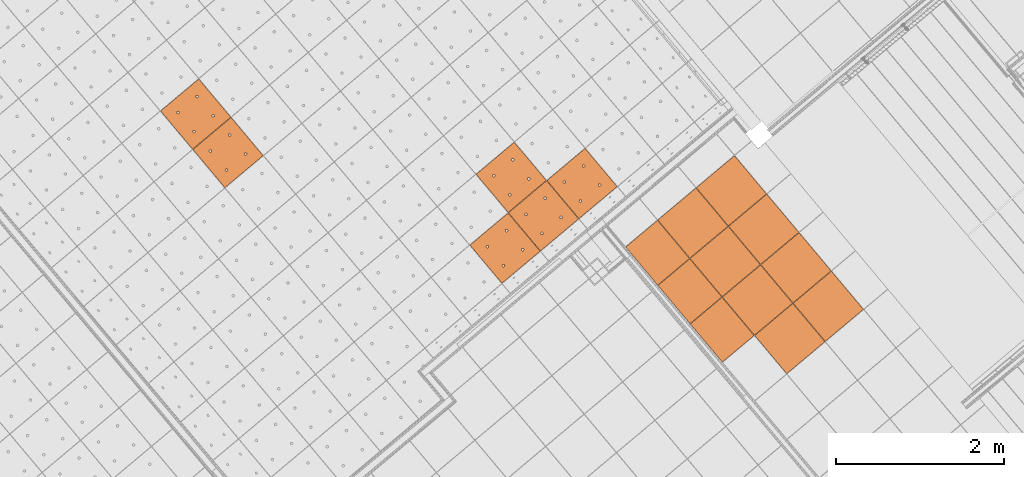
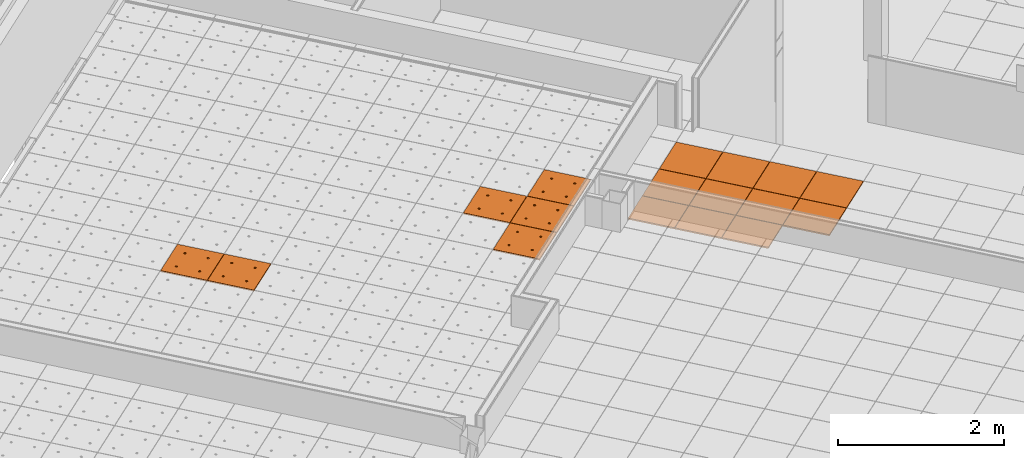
# One storey, part 169 of 338: 17 proxies, 2 elements without a shape of their own.
"""IFC2X3 building model written with IfcOpenShell, lengths in millimetres."""

import ifcopenshell
import ifcopenshell.guid

model = None  # the IFC model being written
_history = None  # IfcOwnerHistory: only IFC2X3 demands one
_inside = {}  # id of a spatial element -> (the spatial element, [elements in it])
_under = {}  # id of a project, library or spatial element -> (it, [spatial elements below it])
_declared = {}  # id of a project -> (the project, [libraries it declares])
_typed = {}  # id of a type object -> (the type object, [elements of that type])
_made_of = {}  # id of a material, layer set ... -> (it, [elements and type objects made of it])


def new_model(schema):
    """Start an empty IFC model of exactly this schema.

    Asked for "IFC4X3", IfcOpenShell would pick the latest addendum, in which some entities
    have other attributes; the version numbers below select the first issue.
    IFC2X3 requires an IfcOwnerHistory on every rooted entity: one is made here for all.
    """
    global model, _history
    if schema == "IFC4X3":
        model = ifcopenshell.file(schema_version=(4, 3, 0, 0))
    else:
        model = ifcopenshell.file(schema=schema)
    _inside.clear()
    _under.clear()
    _declared.clear()
    _typed.clear()
    _made_of.clear()
    _history = None
    if model.schema == "IFC2X3":
        org = make("IfcOrganization", Name="unknown")
        user = make(
            "IfcPersonAndOrganization",
            ThePerson=make("IfcPerson", FamilyName="unknown"),
            TheOrganization=org,
        )
        app = make(
            "IfcApplication",
            ApplicationDeveloper=org,
            Version="unknown",
            ApplicationFullName="unknown",
            ApplicationIdentifier="unknown",
        )
        _history = make(
            "IfcOwnerHistory",
            OwningUser=user,
            OwningApplication=app,
            ChangeAction="ADDED",
            CreationDate=0,
        )
    return model


def make(cls, **values):
    """One entity of the class cls with the attributes given. An attribute that is None is left unset."""
    return model.create_entity(
        cls, **{name: value for name, value in values.items() if value is not None}
    )


def entity(cls, *values):
    """Any entity or typed value of the class cls, its attributes in the order of the schema. None: left unset."""
    e = model.create_entity(cls)
    for i, value in enumerate(values):
        if value is not None:
            e[i] = value
    return e


def rooted(cls, **values):
    """An entity with a GlobalId (a new one), such as an element, a storey or a relation."""
    return make(cls, GlobalId=ifcopenshell.guid.new(), OwnerHistory=_history, **values)


def si_unit(unit_type, name, prefix=None):
    """IfcSIUnit, for example si_unit("LENGTHUNIT", "METRE", prefix="MILLI")."""
    return make("IfcSIUnit", UnitType=unit_type, Prefix=prefix, Name=name)


def converted_unit(unit_type, name, factor, base, dimensions=None, offset=None):
    """IfcConversionBasedUnit, such as the inch: factor (a typed value) times the base unit."""
    return make(
        "IfcConversionBasedUnit"
        if offset is None
        else "IfcConversionBasedUnitWithOffset",
        ConversionOffset=offset,
        Dimensions=None
        if dimensions is None
        else entity("IfcDimensionalExponents", *dimensions),
        UnitType=unit_type,
        Name=name,
        ConversionFactor=make(
            "IfcMeasureWithUnit", ValueComponent=factor, UnitComponent=base
        ),
    )


def derived_unit(unit_type, elements):
    """IfcDerivedUnit: a product of units, each with its exponent."""
    return make(
        "IfcDerivedUnit",
        Elements=[
            make("IfcDerivedUnitElement", Unit=unit, Exponent=power)
            for unit, power in elements
        ],
        UnitType=unit_type,
    )


def money_unit(currency):
    """IfcMonetaryUnit."""
    return make("IfcMonetaryUnit", Currency=currency)


def assignment(units):
    """IfcUnitAssignment: the units of a project."""
    return None if units is None else make("IfcUnitAssignment", Units=units)


def point(xyz):
    """IfcCartesianPoint."""
    return None if xyz is None else make("IfcCartesianPoint", Coordinates=xyz)


def direction(xyz):
    """IfcDirection."""
    return None if xyz is None else make("IfcDirection", DirectionRatios=xyz)


def frame(location, z_axis=None, x_axis=None):
    """IfcAxis2Placement3D, a coordinate frame: its origin and axes. An axis left out is left unset."""
    return make(
        "IfcAxis2Placement3D",
        Location=point(location),
        Axis=direction(z_axis),
        RefDirection=direction(x_axis),
    )


def origin_with_axes():
    """The frame at (0, 0, 0) with the z axis (0, 0, 1) and the x axis (1, 0, 0) written out."""
    return frame((0.0, 0.0, 0.0), z_axis=(0.0, 0.0, 1.0), x_axis=(1.0, 0.0, 0.0))


def place(relative_to, where):
    """IfcLocalPlacement: puts the frame where relative to a parent placement (None: the world)."""
    return make(
        "IfcLocalPlacement", PlacementRelTo=relative_to, RelativePlacement=where
    )


def context(
    kind, dimensions, precision=None, world=None, true_north=None, identifier=None
):
    """IfcGeometricRepresentationContext, for example the 3D "Model" context."""
    return make(
        "IfcGeometricRepresentationContext",
        ContextIdentifier=identifier,
        ContextType=kind,
        CoordinateSpaceDimension=dimensions,
        Precision=precision,
        WorldCoordinateSystem=world,
        TrueNorth=true_north,
    )


def subcontext(parent, identifier, kind, view, scale=None):
    """IfcGeometricRepresentationSubContext, for example "Body" below "Model"."""
    return make(
        "IfcGeometricRepresentationSubContext",
        ContextIdentifier=identifier,
        ContextType=kind,
        ParentContext=parent,
        TargetScale=scale,
        TargetView=view,
    )


def project(units=None, contexts=None):
    """IfcProject with its units and contexts."""
    return rooted(
        "IfcProject",
        Name="project",
        RepresentationContexts=contexts,
        UnitsInContext=assignment(units),
    )


def spatial(cls, under=None, at=None, **own):
    """A site, building, storey or space (cls), placed at a placement, below another one or the project."""
    s = rooted(cls, ObjectPlacement=at, **own)
    if under is not None:
        _under.setdefault(under.id(), (under, []))[1].append(s)
    return s


def faces_of(points, faces, orient=None, outer=None):
    """IfcFace entities. A face is a list of loops; a loop is a list of indices into points, from 0.

    orient and outer hold one flag for each loop. By default every Orientation is true, the
    first loop of a face is its IfcFaceOuterBound and the others are IfcFaceBound.
    """
    made = []
    for i, loops in enumerate(faces):
        bounds = []
        for j, loop in enumerate(loops):
            is_outer = j == 0 if outer is None else outer[i][j]
            bounds.append(
                make(
                    "IfcFaceOuterBound" if is_outer else "IfcFaceBound",
                    Bound=make("IfcPolyLoop", Polygon=[points[k] for k in loop]),
                    Orientation=True if orient is None else orient[i][j],
                )
            )
        made.append(make("IfcFace", Bounds=bounds))
    return made


def faceted_brep(points, faces, orient=None, outer=None, voids=None):
    """IfcFacetedBrep: a solid bounded by flat faces; with voids (closed shells), ...WithVoids."""
    shared = [point(p) for p in points]
    hull = make("IfcClosedShell", CfsFaces=faces_of(shared, faces, orient, outer))
    if voids is None:
        return make("IfcFacetedBrep", Outer=hull)
    return make(
        "IfcFacetedBrepWithVoids",
        Outer=hull,
        Voids=[
            make(cls, CfsFaces=faces_of(shared, fs, o, b)) for cls, fs, o, b in voids
        ],
    )


def shape(context_of_items, identifier, shape_type, items):
    """IfcShapeRepresentation: the items that make up one representation, for example the "Body"."""
    return make(
        "IfcShapeRepresentation",
        ContextOfItems=context_of_items,
        RepresentationIdentifier=identifier,
        RepresentationType=shape_type,
        Items=items,
    )


def source(mapping_origin, context_of_items, identifier, shape_type, items):
    """IfcRepresentationMap: a shape defined once, which mapped items show again and again."""
    return make(
        "IfcRepresentationMap",
        MappingOrigin=mapping_origin,
        MappedRepresentation=shape(context_of_items, identifier, shape_type, items),
    )


def transform(
    local_origin,
    x_axis=None,
    y_axis=None,
    z_axis=None,
    scale=None,
    scale2=None,
    scale3=None,
    uniform=True,
):
    """IfcCartesianTransformationOperator3D, or its non-uniform kind. x_axis, y_axis, z_axis: its Axis1, 2, 3."""
    if uniform:
        return make(
            "IfcCartesianTransformationOperator3D",
            Axis1=direction(x_axis),
            Axis2=direction(y_axis),
            LocalOrigin=point(local_origin),
            Scale=scale,
            Axis3=direction(z_axis),
        )
    return make(
        "IfcCartesianTransformationOperator3DnonUniform",
        Axis1=direction(x_axis),
        Axis2=direction(y_axis),
        LocalOrigin=point(local_origin),
        Scale=scale,
        Axis3=direction(z_axis),
        Scale2=scale2,
        Scale3=scale3,
    )


def mapped(mapping_source, mapping_target):
    """IfcMappedItem: shows the shape of a source again, moved by a transform."""
    return make(
        "IfcMappedItem", MappingSource=mapping_source, MappingTarget=mapping_target
    )


def material(Name=None, Category=None):
    """IfcMaterial."""
    return make("IfcMaterial", Name=Name, Category=Category)


def made_of(thing, what):
    """Note that an element or type object is made of a material, layer set ...; save() writes the relation."""
    if what is not None:
        _made_of.setdefault(what.id(), (what, []))[1].append(thing)
    return thing


def type_object(cls, material=None, **own):
    """A type object (cls), such as IfcWallType, which elements share."""
    return made_of(rooted(cls, **own), material)


def type_shapes(of_type, sources):
    """Give a type object the sources (RepresentationMaps) that its elements show as mapped items."""
    of_type.RepresentationMaps = sources


def element(
    cls,
    number,
    at=None,
    inside=None,
    cuts=None,
    type_object=None,
    material=None,
    context=None,
    identifier="Body",
    shape_type=None,
    held_by="IfcProductDefinitionShape",
    body=None,
    shapes=None,
    **own,
):
    """One element of the class cls, such as IfcWall. Its Tag is "e" and its number.

    at: its placement. inside: the storey or other place that contains it. cuts: it is an
    opening in that element (IfcRelVoidsElement). A single representation is given by context,
    identifier, shape_type and body (its items); several are given by shapes. held_by: the class
    of the entity that holds the representations. save() writes the other relations.
    """
    e = rooted(cls, Tag="e%d" % number, ObjectPlacement=at, **own)
    if body is not None:
        shapes = [shape(context, identifier, shape_type, body)]
    if shapes is not None:
        e.Representation = make(held_by, Representations=shapes)
    if inside is not None:
        _inside.setdefault(inside.id(), (inside, []))[1].append(e)
    if cuts is not None:
        rooted(
            "IfcRelVoidsElement", RelatingBuildingElement=cuts, RelatedOpeningElement=e
        )
    if type_object is not None:
        _typed.setdefault(type_object.id(), (type_object, []))[1].append(e)
    return made_of(e, material)


def aggregate(whole, parts):
    """IfcRelAggregates: a whole, such as a stair, and the parts it consists of."""
    return rooted("IfcRelAggregates", RelatingObject=whole, RelatedObjects=parts)


def save(model, path):
    """Write the relations noted so far, then the file.

    IfcRelAggregates (storeys below a building ...), IfcRelContainedInSpatialStructure (elements
    in a storey), IfcRelDefinesByType, IfcRelAssociatesMaterial and IfcRelDeclares: one each for
    every whole, place, type object, material and project.
    """
    for whole, parts in _under.values():
        aggregate(whole, parts)
    for where, things in _inside.values():
        rooted(
            "IfcRelContainedInSpatialStructure",
            RelatedElements=things,
            RelatingStructure=where,
        )
    for kind, things in _typed.values():
        rooted("IfcRelDefinesByType", RelatedObjects=things, RelatingType=kind)
    for what, things in _made_of.values():
        rooted("IfcRelAssociatesMaterial", RelatedObjects=things, RelatingMaterial=what)
    for by, libraries in _declared.values():
        rooted("IfcRelDeclares", RelatingContext=by, RelatedDefinitions=libraries)
    model.write(path)


model = new_model("IFC2X3")

# Units and contexts
model_context = context("Model", 3, precision=0.01, world=origin_with_axes(), true_north=direction((0.0, 1.0)))
plan_context = context("Plan", 3, precision=0.01, world=origin_with_axes(), true_north=direction((0.0, 1.0)))
body_context = subcontext(model_context, "Body", "Model", "MODEL_VIEW")
ifc_project = project(units=[si_unit("LENGTHUNIT", "METRE", prefix="MILLI"), si_unit("AREAUNIT", "SQUARE_METRE"), si_unit("VOLUMEUNIT", "CUBIC_METRE"), converted_unit("PLANEANGLEUNIT", "DEGREE", entity("IfcPlaneAngleMeasure", 0.0174532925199), si_unit("PLANEANGLEUNIT", "RADIAN"), dimensions=[0, 0, 0, 0, 0, 0, 0]), money_unit("EUR"), converted_unit("TIMEUNIT", "Year", entity("IfcTimeMeasure", 31556926.0), si_unit("TIMEUNIT", "SECOND"), dimensions=[0, 0, 1, 0, 0, 0, 0]), si_unit("MASSUNIT", "GRAM", prefix="KILO"), si_unit("THERMODYNAMICTEMPERATUREUNIT", "DEGREE_CELSIUS"), si_unit("LUMINOUSINTENSITYUNIT", "LUMEN"), si_unit("ENERGYUNIT", "JOULE", prefix="MEGA"), derived_unit("THERMALCONDUCTANCEUNIT", [(si_unit("POWERUNIT", "WATT"), 1), (si_unit("LENGTHUNIT", "METRE"), -1), (si_unit("THERMODYNAMICTEMPERATUREUNIT", "KELVIN"), -1)]), derived_unit("SPECIFICHEATCAPACITYUNIT", [(si_unit("ENERGYUNIT", "JOULE"), 1), (si_unit("MASSUNIT", "GRAM", prefix="KILO"), -1), (si_unit("THERMODYNAMICTEMPERATUREUNIT", "KELVIN"), -1)]), derived_unit("MASSDENSITYUNIT", [(si_unit("MASSUNIT", "GRAM", prefix="KILO"), 1), (si_unit("VOLUMEUNIT", "CUBIC_METRE"), -1)])], contexts=[model_context, plan_context])

# Site, building, storey
site_placement = place(None, origin_with_axes())
site = spatial("IfcSite", under=ifc_project, at=site_placement, Name="Fortuinstraat Woensdrecht", CompositionType="ELEMENT")
building_placement = place(site_placement, origin_with_axes())
building = spatial("IfcBuilding", under=site, at=building_placement, Name="IKC Fortuna", CompositionType="ELEMENT")
storey_placement = place(building_placement, origin_with_axes())
storey = spatial("IfcBuildingStorey", under=building, at=storey_placement, Name="00 begane grond", CompositionType="ELEMENT", Elevation=0.0)

# Covering, proxies
covering_type = type_object("IfcCoveringType", Name="Curtain Wall Type", PredefinedType="CEILING")
covering_1_placement = place(storey_placement, frame((19821.8074512, -1204.73183435, 4460.0), z_axis=(0.0, 0.0, 1.0), x_axis=(1.0, 0.0, 0.0)))
covering_1 = element("IfcCovering", 1, at=covering_1_placement, inside=storey, type_object=covering_type, Name="45_Plafondafwerking_P04", PredefinedType="CEILING")
ifc_material = material(Name="Gipsplaat")
building_element_proxy_type_1 = type_object("IfcBuildingElementProxyType", Name="Distinct Panel 600 x 600 x 20", PredefinedType="NOTDEFINED")
shared_shape_1 = source(origin_with_axes(), body_context, "Body", "Brep", [
    faceted_brep([(-597.499994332, 2.50000201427, -10.0), (-597.499994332, 2.50000201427, 10.0), (-597.499997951, 597.499994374, 10.0), (-597.499997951, 597.499994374, -10.0), (-2.50001005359, 2.49999600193, -10.0), (-2.50001005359, 2.49999600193, 10.0), (-2.49999596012, 597.499989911, 10.0), (-2.49999596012, 597.499989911, -10.0)], [[[0, 1, 2, 3]], [[4, 5, 1, 0]], [[1, 5, 6, 2]], [[3, 2, 6, 7]], [[0, 3, 7, 4]], [[7, 6, 5, 4]]]),
])
proxy_1_placement = place(covering_1_placement, frame((-3856.72604428, 4596.26569076, 0.0), z_axis=(0.0, 0.0, 1.0), x_axis=(1.0, 0.0, 0.0)))
proxy_1 = element("IfcBuildingElementProxy", 2, at=proxy_1_placement, type_object=building_element_proxy_type_1, material=ifc_material, Name="__Panel-D", context=body_context, shape_type="MappedRepresentation", body=[
    mapped(shared_shape_1, transform((-422.649304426, 36.9766074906, 0.0), x_axis=(-0.766044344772, -0.642787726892, 0.0), y_axis=(0.642787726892, -0.766044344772, 0.0), z_axis=(0.0, 0.0, 1.0))),
])
proxy_2_placement = place(covering_1_placement, frame((-3471.05372522, 4136.63946177, 0.0), z_axis=(0.0, 0.0, 1.0), x_axis=(1.0, 0.0, 0.0)))
proxy_2 = element("IfcBuildingElementProxy", 3, at=proxy_2_placement, type_object=building_element_proxy_type_1, material=ifc_material, Name="__Panel-D", context=body_context, shape_type="MappedRepresentation", body=[
    mapped(shared_shape_1, transform((-422.649621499, 36.9769853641, 0.0), x_axis=(-0.766044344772, -0.642787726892, 0.0), y_axis=(0.642787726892, -0.766044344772, 0.0), z_axis=(0.0, 0.0, 1.0))),
])
proxy_3_placement = place(covering_1_placement, frame((-2699.70845295, 3217.38624804, 0.0), z_axis=(0.0, 0.0, 1.0), x_axis=(1.0, 0.0, 0.0)))
proxy_3 = element("IfcBuildingElementProxy", 4, at=proxy_3_placement, type_object=building_element_proxy_type_1, material=ifc_material, Name="__Panel-D", context=body_context, shape_type="MappedRepresentation", body=[
    mapped(shared_shape_1, transform((-422.649621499, 36.9769853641, 0.0), x_axis=(-0.766044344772, -0.642787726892, 0.0), y_axis=(0.642787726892, -0.766044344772, 0.0), z_axis=(0.0, 0.0, 1.0))),
])
proxy_4_placement = place(covering_1_placement, frame((-3085.38108908, 3677.01285491, 0.0), z_axis=(0.0, 0.0, 1.0), x_axis=(1.0, 0.0, 0.0)))
proxy_4 = element("IfcBuildingElementProxy", 5, at=proxy_4_placement, type_object=building_element_proxy_type_1, material=ifc_material, Name="__Panel-D", context=body_context, shape_type="MappedRepresentation", body=[
    mapped(shared_shape_1, transform((-422.649621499, 36.9769853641, 0.0), x_axis=(-0.766044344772, -0.642787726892, 0.0), y_axis=(0.642787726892, -0.766044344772, 0.0), z_axis=(0.0, 0.0, 1.0))),
])
shared_shape_2 = source(origin_with_axes(), body_context, "Body", "Brep", [
    faceted_brep([(-597.500003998, 2.50001005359, -10.0), (-597.500003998, 2.50001005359, 10.0), (-597.499997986, 597.499994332, 10.0), (-597.499997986, 597.499994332, -10.0), (-2.50001008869, 2.4999959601, -10.0), (-2.50001008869, 2.4999959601, 10.0), (-2.50000562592, 597.499997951, 10.0), (-2.50000562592, 597.499997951, -10.0)], [[[0, 1, 2, 3]], [[4, 5, 1, 0]], [[1, 5, 6, 2]], [[3, 2, 6, 7]], [[0, 3, 7, 4]], [[7, 6, 5, 4]]]),
])
type_shapes(building_element_proxy_type_1, [shared_shape_1, shared_shape_2])
proxy_5_placement = place(covering_1_placement, frame((-3159.33505981, 2831.71361191, 0.0), z_axis=(0.0, 0.0, 1.0), x_axis=(1.0, 0.0, 0.0)))
proxy_5 = element("IfcBuildingElementProxy", 6, at=proxy_5_placement, type_object=building_element_proxy_type_1, material=ifc_material, Name="__Panel-D", context=body_context, shape_type="MappedRepresentation", body=[
    mapped(shared_shape_2, transform((-422.649621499, 36.9769853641, 0.0), x_axis=(-0.766044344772, -0.642787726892, 0.0), y_axis=(0.642787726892, -0.766044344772, 0.0), z_axis=(0.0, 0.0, 1.0))),
])
proxy_6_placement = place(covering_1_placement, frame((-4316.35265114, 4210.59305462, 0.0), z_axis=(0.0, 0.0, 1.0), x_axis=(1.0, 0.0, 0.0)))
proxy_6 = element("IfcBuildingElementProxy", 7, at=proxy_6_placement, type_object=building_element_proxy_type_1, material=ifc_material, Name="__Panel-D", context=body_context, shape_type="MappedRepresentation", body=[
    mapped(shared_shape_2, transform((-422.649304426, 36.9766074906, 0.0), x_axis=(-0.766044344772, -0.642787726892, 0.0), y_axis=(0.642787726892, -0.766044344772, 0.0), z_axis=(0.0, 0.0, 1.0))),
])
proxy_7_placement = place(covering_1_placement, frame((-3930.68033208, 3750.96682563, 0.0), z_axis=(0.0, 0.0, 1.0), x_axis=(1.0, 0.0, 0.0)))
proxy_7 = element("IfcBuildingElementProxy", 8, at=proxy_7_placement, type_object=building_element_proxy_type_1, material=ifc_material, Name="__Panel-D", context=body_context, shape_type="MappedRepresentation", body=[
    mapped(shared_shape_2, transform((-422.649621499, 36.9769853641, 0.0), x_axis=(-0.766044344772, -0.642787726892, 0.0), y_axis=(0.642787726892, -0.766044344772, 0.0), z_axis=(0.0, 0.0, 1.0))),
])
proxy_8_placement = place(covering_1_placement, frame((-3545.00769594, 3291.34021877, 0.0), z_axis=(0.0, 0.0, 1.0), x_axis=(1.0, 0.0, 0.0)))
proxy_8 = element("IfcBuildingElementProxy", 9, at=proxy_8_placement, type_object=building_element_proxy_type_1, material=ifc_material, Name="__Panel-D", context=body_context, shape_type="MappedRepresentation", body=[
    mapped(shared_shape_2, transform((-422.649621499, 36.9769853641, 0.0), x_axis=(-0.766044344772, -0.642787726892, 0.0), y_axis=(0.642787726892, -0.766044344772, 0.0), z_axis=(0.0, 0.0, 1.0))),
])

covering_2_placement = place(storey_placement, frame((15863.124366, 4456.31398675, 4619.99995334), z_axis=(0.0, 0.0, 1.0), x_axis=(1.0, 0.0, 0.0)))
covering_2 = element("IfcCovering", 10, at=covering_2_placement, inside=storey, type_object=covering_type, Name="45_Plafondafwerking_P01", PredefinedType="CEILING")
building_element_proxy_type_2 = type_object("IfcBuildingElementProxyType", Name="Main Panel 600 x 600 x 20", PredefinedType="NOTDEFINED")
shared_shape_3 = source(origin_with_axes(), body_context, "Body", "Brep", [
    faceted_brep([(2.50000262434, 2.50000269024, -10.0), (299.999999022, 2.50000269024, -10.0), (299.999999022, 2.50000269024, 10.0), (2.50000262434, 2.50000269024, 10.0), (2.50000262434, 300.000003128, -10.0), (2.50000262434, 597.500003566, -10.0), (299.999999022, 597.500003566, -10.0), (597.499995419, 597.500003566, -10.0), (597.499995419, 300.000003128, -10.0), (597.499995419, 2.50000269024, -10.0), (166.250000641, 450.062333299, -10.0), (165.794233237, 452.647118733, -10.0), (164.896546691, 455.113492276, -10.0), (163.584216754, 457.386514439, -10.0), (161.897117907, 459.397120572, -10.0), (159.886511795, 461.084219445, -10.0), (157.613489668, 462.396549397, -10.0), (155.147116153, 463.294235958, -10.0), (152.56233076, 463.750003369, -10.0), (149.937670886, 463.750003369, -10.0), (147.352885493, 463.294235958, -10.0), (144.886511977, 462.396549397, -10.0), (142.61348985, 461.084219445, -10.0), (140.602883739, 459.397120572, -10.0), (138.915784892, 457.386514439, -10.0), (137.603454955, 455.113492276, -10.0), (136.705768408, 452.647118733, -10.0), (136.250001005, 450.062333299, -10.0), (136.250001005, 448.750003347, -10.0), (136.250001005, 447.437673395, -10.0), (136.705768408, 444.852887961, -10.0), (137.603454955, 442.386514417, -10.0), (138.915784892, 440.113492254, -10.0), (140.602883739, 438.102886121, -10.0), (142.61348985, 436.415787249, -10.0), (144.886511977, 435.103457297, -10.0), (147.352885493, 434.205770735, -10.0), (149.937670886, 433.750003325, -10.0), (152.56233076, 433.750003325, -10.0), (155.147116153, 434.205770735, -10.0), (157.613489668, 435.103457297, -10.0), (159.886511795, 436.415787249, -10.0), (161.897117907, 438.102886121, -10.0), (163.584216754, 440.113492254, -10.0), (164.896546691, 442.386514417, -10.0), (165.794233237, 444.852887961, -10.0), (166.250000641, 447.437673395, -10.0), (463.749997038, 450.062333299, -10.0), (463.294229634, 452.647118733, -10.0), (462.396543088, 455.113492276, -10.0), (461.084213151, 457.386514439, -10.0), (459.397114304, 459.397120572, -10.0), (457.386508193, 461.084219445, -10.0), (455.113486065, 462.396549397, -10.0), (452.64711255, 463.294235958, -10.0), (450.062327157, 463.750003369, -10.0), (447.437667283, 463.750003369, -10.0), (444.85288189, 463.294235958, -10.0), (442.386508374, 462.396549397, -10.0), (440.113486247, 461.084219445, -10.0), (438.102880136, 459.397120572, -10.0), (436.415781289, 457.386514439, -10.0), (435.103451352, 455.113492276, -10.0), (434.205764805, 452.647118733, -10.0), (433.749997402, 450.062333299, -10.0), (433.749997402, 448.750003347, -10.0), (433.749997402, 447.437673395, -10.0), (434.205764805, 444.852887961, -10.0), (435.103451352, 442.386514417, -10.0), (436.415781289, 440.113492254, -10.0), (438.102880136, 438.102886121, -10.0), (440.113486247, 436.415787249, -10.0), (442.386508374, 435.103457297, -10.0), (444.85288189, 434.205770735, -10.0), (447.437667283, 433.750003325, -10.0), (450.062327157, 433.750003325, -10.0), (452.64711255, 434.205770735, -10.0), (455.113486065, 435.103457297, -10.0), (457.386508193, 436.415787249, -10.0), (459.397114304, 438.102886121, -10.0), (461.084213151, 440.113492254, -10.0), (462.396543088, 442.386514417, -10.0), (463.294229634, 444.852887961, -10.0), (463.749997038, 447.437673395, -10.0), (463.749997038, 152.562332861, -10.0), (463.294229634, 155.147118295, -10.0), (462.396543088, 157.613491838, -10.0), (461.084213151, 159.886514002, -10.0), (459.397114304, 161.897120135, -10.0), (457.386508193, 163.584219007, -10.0), (455.113486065, 164.896548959, -10.0), (452.64711255, 165.79423552, -10.0), (450.062327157, 166.250002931, -10.0), (447.437667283, 166.250002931, -10.0), (444.85288189, 165.79423552, -10.0), (442.386508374, 164.896548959, -10.0), (440.113486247, 163.584219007, -10.0), (438.102880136, 161.897120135, -10.0), (436.415781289, 159.886514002, -10.0), (435.103451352, 157.613491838, -10.0), (434.205764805, 155.147118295, -10.0), (433.749997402, 152.562332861, -10.0), (433.749997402, 151.250002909, -10.0), (433.749997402, 149.937672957, -10.0), (434.205764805, 147.352887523, -10.0), (435.103451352, 144.88651398, -10.0), (436.415781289, 142.613491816, -10.0), (438.102880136, 140.602885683, -10.0), (440.113486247, 138.915786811, -10.0), (442.386508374, 137.603456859, -10.0), (444.85288189, 136.705770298, -10.0), (447.437667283, 136.250002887, -10.0), (450.062327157, 136.250002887, -10.0), (452.64711255, 136.705770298, -10.0), (455.113486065, 137.603456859, -10.0), (457.386508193, 138.915786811, -10.0), (459.397114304, 140.602885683, -10.0), (461.084213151, 142.613491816, -10.0), (462.396543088, 144.88651398, -10.0), (463.294229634, 147.352887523, -10.0), (463.749997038, 149.937672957, -10.0), (166.250000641, 152.562332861, -10.0), (165.794233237, 155.147118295, -10.0), (164.896546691, 157.613491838, -10.0), (163.584216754, 159.886514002, -10.0), (161.897117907, 161.897120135, -10.0), (159.886511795, 163.584219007, -10.0), (157.613489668, 164.896548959, -10.0), (155.147116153, 165.79423552, -10.0), (152.56233076, 166.250002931, -10.0), (149.937670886, 166.250002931, -10.0), (147.352885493, 165.79423552, -10.0), (144.886511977, 164.896548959, -10.0), (142.61348985, 163.584219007, -10.0), (140.602883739, 161.897120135, -10.0), (138.915784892, 159.886514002, -10.0), (137.603454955, 157.613491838, -10.0), (136.705768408, 155.147118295, -10.0), (136.250001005, 152.562332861, -10.0), (136.250001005, 151.250002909, -10.0), (136.250001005, 149.937672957, -10.0), (136.705768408, 147.352887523, -10.0), (137.603454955, 144.88651398, -10.0), (138.915784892, 142.613491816, -10.0), (140.602883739, 140.602885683, -10.0), (142.61348985, 138.915786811, -10.0), (144.886511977, 137.603456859, -10.0), (147.352885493, 136.705770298, -10.0), (149.937670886, 136.250002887, -10.0), (152.56233076, 136.250002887, -10.0), (155.147116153, 136.705770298, -10.0), (157.613489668, 137.603456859, -10.0), (159.886511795, 138.915786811, -10.0), (161.897117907, 140.602885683, -10.0), (163.584216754, 142.613491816, -10.0), (164.896546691, 144.88651398, -10.0), (165.794233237, 147.352887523, -10.0), (166.250000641, 149.937672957, -10.0), (597.499995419, 2.50000269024, 10.0), (597.499995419, 300.000003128, 10.0), (597.499995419, 597.500003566, 10.0), (299.999999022, 597.500003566, 10.0), (2.50000262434, 597.500003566, 10.0), (2.50000262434, 300.000003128, 10.0), (166.250000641, 450.062333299, 10.0), (166.250000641, 447.437673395, 10.0), (165.794233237, 444.852887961, 10.0), (164.896546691, 442.386514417, 10.0), (163.584216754, 440.113492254, 10.0), (161.897117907, 438.102886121, 10.0), (159.886511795, 436.415787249, 10.0), (157.613489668, 435.103457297, 10.0), (155.147116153, 434.205770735, 10.0), (152.56233076, 433.750003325, 10.0), (149.937670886, 433.750003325, 10.0), (147.352885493, 434.205770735, 10.0), (144.886511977, 435.103457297, 10.0), (142.61348985, 436.415787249, 10.0), (140.602883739, 438.102886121, 10.0), (138.915784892, 440.113492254, 10.0), (137.603454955, 442.386514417, 10.0), (136.705768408, 444.852887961, 10.0), (136.250001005, 447.437673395, 10.0), (136.250001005, 448.750003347, 10.0), (136.250001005, 450.062333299, 10.0), (136.705768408, 452.647118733, 10.0), (137.603454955, 455.113492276, 10.0), (138.915784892, 457.386514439, 10.0), (140.602883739, 459.397120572, 10.0), (142.61348985, 461.084219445, 10.0), (144.886511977, 462.396549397, 10.0), (147.352885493, 463.294235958, 10.0), (149.937670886, 463.750003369, 10.0), (152.56233076, 463.750003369, 10.0), (155.147116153, 463.294235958, 10.0), (157.613489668, 462.396549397, 10.0), (159.886511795, 461.084219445, 10.0), (161.897117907, 459.397120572, 10.0), (163.584216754, 457.386514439, 10.0), (164.896546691, 455.113492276, 10.0), (165.794233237, 452.647118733, 10.0), (463.749997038, 450.062333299, 10.0), (463.749997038, 447.437673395, 10.0), (463.294229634, 444.852887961, 10.0), (462.396543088, 442.386514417, 10.0), (461.084213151, 440.113492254, 10.0), (459.397114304, 438.102886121, 10.0), (457.386508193, 436.415787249, 10.0), (455.113486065, 435.103457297, 10.0), (452.64711255, 434.205770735, 10.0), (450.062327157, 433.750003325, 10.0), (447.437667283, 433.750003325, 10.0), (444.85288189, 434.205770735, 10.0), (442.386508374, 435.103457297, 10.0), (440.113486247, 436.415787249, 10.0), (438.102880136, 438.102886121, 10.0), (436.415781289, 440.113492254, 10.0), (435.103451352, 442.386514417, 10.0), (434.205764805, 444.852887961, 10.0), (433.749997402, 447.437673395, 10.0), (433.749997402, 448.750003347, 10.0), (433.749997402, 450.062333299, 10.0), (434.205764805, 452.647118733, 10.0), (435.103451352, 455.113492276, 10.0), (436.415781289, 457.386514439, 10.0), (438.102880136, 459.397120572, 10.0), (440.113486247, 461.084219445, 10.0), (442.386508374, 462.396549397, 10.0), (444.85288189, 463.294235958, 10.0), (447.437667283, 463.750003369, 10.0), (450.062327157, 463.750003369, 10.0), (452.64711255, 463.294235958, 10.0), (455.113486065, 462.396549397, 10.0), (457.386508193, 461.084219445, 10.0), (459.397114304, 459.397120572, 10.0), (461.084213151, 457.386514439, 10.0), (462.396543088, 455.113492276, 10.0), (463.294229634, 452.647118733, 10.0), (463.749997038, 152.562332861, 10.0), (463.749997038, 149.937672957, 10.0), (463.294229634, 147.352887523, 10.0), (462.396543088, 144.88651398, 10.0), (461.084213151, 142.613491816, 10.0), (459.397114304, 140.602885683, 10.0), (457.386508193, 138.915786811, 10.0), (455.113486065, 137.603456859, 10.0), (452.64711255, 136.705770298, 10.0), (450.062327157, 136.250002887, 10.0), (447.437667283, 136.250002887, 10.0), (444.85288189, 136.705770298, 10.0), (442.386508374, 137.603456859, 10.0), (440.113486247, 138.915786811, 10.0), (438.102880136, 140.602885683, 10.0), (436.415781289, 142.613491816, 10.0), (435.103451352, 144.88651398, 10.0), (434.205764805, 147.352887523, 10.0), (433.749997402, 149.937672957, 10.0), (433.749997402, 151.250002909, 10.0), (433.749997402, 152.562332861, 10.0), (434.205764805, 155.147118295, 10.0), (435.103451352, 157.613491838, 10.0), (436.415781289, 159.886514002, 10.0), (438.102880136, 161.897120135, 10.0), (440.113486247, 163.584219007, 10.0), (442.386508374, 164.896548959, 10.0), (444.85288189, 165.79423552, 10.0), (447.437667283, 166.250002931, 10.0), (450.062327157, 166.250002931, 10.0), (452.64711255, 165.79423552, 10.0), (455.113486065, 164.896548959, 10.0), (457.386508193, 163.584219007, 10.0), (459.397114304, 161.897120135, 10.0), (461.084213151, 159.886514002, 10.0), (462.396543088, 157.613491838, 10.0), (463.294229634, 155.147118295, 10.0), (166.250000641, 152.562332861, 10.0), (166.250000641, 149.937672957, 10.0), (165.794233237, 147.352887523, 10.0), (164.896546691, 144.88651398, 10.0), (163.584216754, 142.613491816, 10.0), (161.897117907, 140.602885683, 10.0), (159.886511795, 138.915786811, 10.0), (157.613489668, 137.603456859, 10.0), (155.147116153, 136.705770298, 10.0), (152.56233076, 136.250002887, 10.0), (149.937670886, 136.250002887, 10.0), (147.352885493, 136.705770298, 10.0), (144.886511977, 137.603456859, 10.0), (142.61348985, 138.915786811, 10.0), (140.602883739, 140.602885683, 10.0), (138.915784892, 142.613491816, 10.0), (137.603454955, 144.88651398, 10.0), (136.705768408, 147.352887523, 10.0), (136.250001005, 149.937672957, 10.0), (136.250001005, 151.250002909, 10.0), (136.250001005, 152.562332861, 10.0), (136.705768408, 155.147118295, 10.0), (137.603454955, 157.613491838, 10.0), (138.915784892, 159.886514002, 10.0), (140.602883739, 161.897120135, 10.0), (142.61348985, 163.584219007, 10.0), (144.886511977, 164.896548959, 10.0), (147.352885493, 165.79423552, 10.0), (149.937670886, 166.250002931, 10.0), (152.56233076, 166.250002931, 10.0), (155.147116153, 165.79423552, 10.0), (157.613489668, 164.896548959, 10.0), (159.886511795, 163.584219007, 10.0), (161.897117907, 161.897120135, 10.0), (163.584216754, 159.886514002, 10.0), (164.896546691, 157.613491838, 10.0), (165.794233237, 155.147118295, 10.0)], [[[0, 1, 2, 3]], [[0, 4, 5, 6, 7, 8, 9, 1], [10, 11, 12, 13, 14, 15, 16, 17, 18, 19, 20, 21, 22, 23, 24, 25, 26, 27, 28, 29, 30, 31, 32, 33, 34, 35, 36, 37, 38, 39, 40, 41, 42, 43, 44, 45, 46], [47, 48, 49, 50, 51, 52, 53, 54, 55, 56, 57, 58, 59, 60, 61, 62, 63, 64, 65, 66, 67, 68, 69, 70, 71, 72, 73, 74, 75, 76, 77, 78, 79, 80, 81, 82, 83], [84, 85, 86, 87, 88, 89, 90, 91, 92, 93, 94, 95, 96, 97, 98, 99, 100, 101, 102, 103, 104, 105, 106, 107, 108, 109, 110, 111, 112, 113, 114, 115, 116, 117, 118, 119, 120], [121, 122, 123, 124, 125, 126, 127, 128, 129, 130, 131, 132, 133, 134, 135, 136, 137, 138, 139, 140, 141, 142, 143, 144, 145, 146, 147, 148, 149, 150, 151, 152, 153, 154, 155, 156, 157]], [[1, 9, 158, 2]], [[3, 2, 158, 159, 160, 161, 162, 163], [164, 165, 166, 167, 168, 169, 170, 171, 172, 173, 174, 175, 176, 177, 178, 179, 180, 181, 182, 183, 184, 185, 186, 187, 188, 189, 190, 191, 192, 193, 194, 195, 196, 197, 198, 199, 200], [201, 202, 203, 204, 205, 206, 207, 208, 209, 210, 211, 212, 213, 214, 215, 216, 217, 218, 219, 220, 221, 222, 223, 224, 225, 226, 227, 228, 229, 230, 231, 232, 233, 234, 235, 236, 237], [238, 239, 240, 241, 242, 243, 244, 245, 246, 247, 248, 249, 250, 251, 252, 253, 254, 255, 256, 257, 258, 259, 260, 261, 262, 263, 264, 265, 266, 267, 268, 269, 270, 271, 272, 273, 274], [275, 276, 277, 278, 279, 280, 281, 282, 283, 284, 285, 286, 287, 288, 289, 290, 291, 292, 293, 294, 295, 296, 297, 298, 299, 300, 301, 302, 303, 304, 305, 306, 307, 308, 309, 310, 311]], [[4, 0, 3, 163]], [[5, 4, 163, 162]], [[6, 5, 162, 161]], [[7, 6, 161, 160]], [[8, 7, 160, 159]], [[9, 8, 159, 158]], [[11, 10, 164, 200]], [[12, 11, 200, 199]], [[13, 12, 199, 198]], [[14, 13, 198, 197]], [[15, 14, 197, 196]], [[16, 15, 196, 195]], [[17, 16, 195, 194]], [[18, 17, 194, 193]], [[19, 18, 193, 192]], [[20, 19, 192, 191]], [[21, 20, 191, 190]], [[22, 21, 190, 189]], [[23, 22, 189, 188]], [[24, 23, 188, 187]], [[25, 24, 187, 186]], [[26, 25, 186, 185]], [[27, 26, 185, 184]], [[28, 27, 184, 183]], [[29, 28, 183, 182]], [[30, 29, 182, 181]], [[31, 30, 181, 180]], [[32, 31, 180, 179]], [[33, 32, 179, 178]], [[34, 33, 178, 177]], [[35, 34, 177, 176]], [[36, 35, 176, 175]], [[37, 36, 175, 174]], [[38, 37, 174, 173]], [[39, 38, 173, 172]], [[40, 39, 172, 171]], [[41, 40, 171, 170]], [[42, 41, 170, 169]], [[43, 42, 169, 168]], [[44, 43, 168, 167]], [[45, 44, 167, 166]], [[46, 45, 166, 165]], [[10, 46, 165, 164]], [[48, 47, 201, 237]], [[49, 48, 237, 236]], [[50, 49, 236, 235]], [[51, 50, 235, 234]], [[52, 51, 234, 233]], [[53, 52, 233, 232]], [[54, 53, 232, 231]], [[55, 54, 231, 230]], [[56, 55, 230, 229]], [[57, 56, 229, 228]], [[58, 57, 228, 227]], [[59, 58, 227, 226]], [[60, 59, 226, 225]], [[61, 60, 225, 224]], [[62, 61, 224, 223]], [[63, 62, 223, 222]], [[64, 63, 222, 221]], [[65, 64, 221, 220]], [[66, 65, 220, 219]], [[67, 66, 219, 218]], [[68, 67, 218, 217]], [[69, 68, 217, 216]], [[70, 69, 216, 215]], [[71, 70, 215, 214]], [[72, 71, 214, 213]], [[73, 72, 213, 212]], [[74, 73, 212, 211]], [[75, 74, 211, 210]], [[76, 75, 210, 209]], [[77, 76, 209, 208]], [[78, 77, 208, 207]], [[79, 78, 207, 206]], [[80, 79, 206, 205]], [[81, 80, 205, 204]], [[82, 81, 204, 203]], [[83, 82, 203, 202]], [[47, 83, 202, 201]], [[85, 84, 238, 274]], [[86, 85, 274, 273]], [[87, 86, 273, 272]], [[88, 87, 272, 271]], [[89, 88, 271, 270]], [[90, 89, 270, 269]], [[91, 90, 269, 268]], [[92, 91, 268, 267]], [[93, 92, 267, 266]], [[94, 93, 266, 265]], [[95, 94, 265, 264]], [[96, 95, 264, 263]], [[97, 96, 263, 262]], [[98, 97, 262, 261]], [[99, 98, 261, 260]], [[100, 99, 260, 259]], [[101, 100, 259, 258]], [[102, 101, 258, 257]], [[103, 102, 257, 256]], [[104, 103, 256, 255]], [[105, 104, 255, 254]], [[106, 105, 254, 253]], [[107, 106, 253, 252]], [[108, 107, 252, 251]], [[109, 108, 251, 250]], [[110, 109, 250, 249]], [[111, 110, 249, 248]], [[112, 111, 248, 247]], [[113, 112, 247, 246]], [[114, 113, 246, 245]], [[115, 114, 245, 244]], [[116, 115, 244, 243]], [[117, 116, 243, 242]], [[118, 117, 242, 241]], [[119, 118, 241, 240]], [[120, 119, 240, 239]], [[84, 120, 239, 238]], [[122, 121, 275, 311]], [[123, 122, 311, 310]], [[124, 123, 310, 309]], [[125, 124, 309, 308]], [[126, 125, 308, 307]], [[127, 126, 307, 306]], [[128, 127, 306, 305]], [[129, 128, 305, 304]], [[130, 129, 304, 303]], [[131, 130, 303, 302]], [[132, 131, 302, 301]], [[133, 132, 301, 300]], [[134, 133, 300, 299]], [[135, 134, 299, 298]], [[136, 135, 298, 297]], [[137, 136, 297, 296]], [[138, 137, 296, 295]], [[139, 138, 295, 294]], [[140, 139, 294, 293]], [[141, 140, 293, 292]], [[142, 141, 292, 291]], [[143, 142, 291, 290]], [[144, 143, 290, 289]], [[145, 144, 289, 288]], [[146, 145, 288, 287]], [[147, 146, 287, 286]], [[148, 147, 286, 285]], [[149, 148, 285, 284]], [[150, 149, 284, 283]], [[151, 150, 283, 282]], [[152, 151, 282, 281]], [[153, 152, 281, 280]], [[154, 153, 280, 279]], [[155, 154, 279, 278]], [[156, 155, 278, 277]], [[157, 156, 277, 276]], [[121, 157, 276, 275]]]),
])
type_shapes(building_element_proxy_type_2, [shared_shape_3])
proxy_9_placement = place(covering_2_placement, frame((-6293.34194648, -148.801000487, 26.4887783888), z_axis=(0.0, 0.0, 1.0), x_axis=(0.642787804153, -0.766044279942, 0.0)))
proxy_9 = element("IfcBuildingElementProxy", 11, at=proxy_9_placement, type_object=building_element_proxy_type_2, material=ifc_material, Name="__600x991 Rockfon Krios", context=body_context, shape_type="MappedRepresentation", body=[
    mapped(shared_shape_3, transform((-300.0, 299.995617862, -1.62150043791), x_axis=(0.0, -0.999985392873, 0.00540500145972), y_axis=(1.0, 0.0, 0.0), z_axis=(0.0, 0.00540500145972, 0.999985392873))),
])
proxy_10_placement = place(covering_2_placement, frame((-5907.66926399, -608.427568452, 26.4887783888), z_axis=(0.0, 0.0, 1.0), x_axis=(0.642787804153, -0.766044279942, 0.0)))
proxy_10 = element("IfcBuildingElementProxy", 12, at=proxy_10_placement, type_object=building_element_proxy_type_2, material=ifc_material, Name="__600x004 Rockfon Krios", context=body_context, shape_type="MappedRepresentation", body=[
    mapped(shared_shape_3, transform((-300.0, 299.995617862, -1.62150043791), x_axis=(0.0, -0.999985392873, 0.00540500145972), y_axis=(1.0, 0.0, 0.0), z_axis=(0.0, 0.00540500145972, 0.999985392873))),
])
proxy_11_placement = place(covering_2_placement, frame((-2526.49911746, -904.265644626, 13.5167748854), z_axis=(0.0, 0.0, 1.0), x_axis=(0.642787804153, -0.766044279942, 0.0)))
proxy_11 = element("IfcBuildingElementProxy", 13, at=proxy_11_placement, type_object=building_element_proxy_type_2, material=ifc_material, Name="__600x052 Rockfon Krios", context=body_context, shape_type="MappedRepresentation", body=[
    mapped(shared_shape_3, transform((-300.0, 299.995617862, -1.62150043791), x_axis=(0.0, -0.999985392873, 0.00540500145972), y_axis=(1.0, 0.0, 0.0), z_axis=(0.0, 0.00540500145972, 0.999985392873))),
])
proxy_12_placement = place(covering_2_placement, frame((-1681.20658083, -978.225163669, 10.2737740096), z_axis=(0.0, 0.0, 1.0), x_axis=(0.642787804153, -0.766044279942, 0.0)))
proxy_12 = element("IfcBuildingElementProxy", 14, at=proxy_12_placement, type_object=building_element_proxy_type_2, material=ifc_material, Name="__600x064 Rockfon Krios", context=body_context, shape_type="MappedRepresentation", body=[
    mapped(shared_shape_3, transform((-300.0, 299.995617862, -1.62150043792), x_axis=(0.0, -0.999985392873, 0.00540500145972), y_axis=(1.0, 0.0, 0.0), z_axis=(0.0, 0.00540500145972, 0.999985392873))),
])
proxy_13_placement = place(covering_2_placement, frame((-2140.82643497, -1363.89221259, 13.5167748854), z_axis=(0.0, 0.0, 1.0), x_axis=(0.642787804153, -0.766044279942, 0.0)))
proxy_13 = element("IfcBuildingElementProxy", 15, at=proxy_13_placement, type_object=building_element_proxy_type_2, material=ifc_material, Name="__600x065 Rockfon Krios", context=body_context, shape_type="MappedRepresentation", body=[
    mapped(shared_shape_3, transform((-300.0, 299.995617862, -1.62150043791), x_axis=(0.0, -0.999985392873, 0.00540500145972), y_axis=(1.0, 0.0, 0.0), z_axis=(0.0, 0.00540500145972, 0.999985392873))),
])
proxy_14_placement = place(covering_2_placement, frame((-2600.44628911, -1749.55926151, 16.7597757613), z_axis=(0.0, 0.0, 1.0), x_axis=(0.642787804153, -0.766044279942, 0.0)))
proxy_14 = element("IfcBuildingElementProxy", 16, at=proxy_14_placement, type_object=building_element_proxy_type_2, material=ifc_material, Name="__600x066 Rockfon Krios", context=body_context, shape_type="MappedRepresentation", body=[
    mapped(shared_shape_3, transform((-300.0, 299.995617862, -1.62150043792), x_axis=(0.0, -0.999985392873, 0.00540500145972), y_axis=(1.0, 0.0, 0.0), z_axis=(0.0, 0.00540500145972, 0.999985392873))),
])
aggregate(covering_2, [proxy_9, proxy_10, proxy_11, proxy_12, proxy_13, proxy_14])

# Proxy
building_element_proxy_type_3 = type_object("IfcBuildingElementProxyType", Name="Distinct Panel 500 x 600 x 20", PredefinedType="NOTDEFINED")
shared_shape_4 = source(origin_with_axes(), body_context, "Body", "Brep", [
    faceted_brep([(-597.499996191, 2.4999898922, -10.0), (-597.499996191, 2.4999898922, 10.0), (-597.500006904, 597.500000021, 10.0), (-597.500006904, 597.500000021, -10.0), (-102.501953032, 2.49998751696, -10.0), (-102.501953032, 2.49998751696, 10.0), (-102.501963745, 597.499997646, 10.0), (-102.501963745, 597.499997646, -10.0)], [[[0, 1, 2, 3]], [[4, 5, 1, 0]], [[1, 5, 6, 2]], [[3, 2, 6, 7]], [[0, 3, 7, 4]], [[7, 6, 5, 4]]]),
])
type_shapes(building_element_proxy_type_3, [shared_shape_4])
proxy_15_placement = place(covering_1_placement, frame((-4352.00397223, 3397.43420473, 0.0), z_axis=(0.0, 0.0, 1.0), x_axis=(1.0, 0.0, 0.0)))
proxy_15 = element("IfcBuildingElementProxy", 17, at=proxy_15_placement, type_object=building_element_proxy_type_3, material=ifc_material, Name="__Panel-D", context=body_context, shape_type="MappedRepresentation", body=[
    mapped(shared_shape_4, transform((-460.95258821, 4.83697013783, 0.0), x_axis=(-0.766044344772, -0.642787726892, 0.0), y_axis=(0.642787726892, -0.766044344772, 0.0), z_axis=(0.0, 0.0, 1.0))),
])

proxy_16_placement = place(covering_1_placement, frame((-3966.3313361, 2937.80759786, 0.0), z_axis=(0.0, 0.0, 1.0), x_axis=(1.0, 0.0, 0.0)))
proxy_16 = element("IfcBuildingElementProxy", 18, at=proxy_16_placement, type_object=building_element_proxy_type_3, material=ifc_material, Name="__Panel-D", context=body_context, shape_type="MappedRepresentation", body=[
    mapped(shared_shape_4, transform((-460.95258821, 4.83697013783, 0.0), x_axis=(-0.766044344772, -0.642787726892, 0.0), y_axis=(0.642787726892, -0.766044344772, 0.0), z_axis=(0.0, 0.0, 1.0))),
])

proxy_17_placement = place(covering_1_placement, frame((-4737.67629757, 3857.06042844, 0.0), z_axis=(0.0, 0.0, 1.0), x_axis=(1.0, 0.0, 0.0)))
proxy_17 = element("IfcBuildingElementProxy", 19, at=proxy_17_placement, type_object=building_element_proxy_type_3, material=ifc_material, Name="__Panel-D", context=body_context, shape_type="MappedRepresentation", body=[
    mapped(shared_shape_4, transform((-460.952264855, 4.83659753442, 0.0), x_axis=(-0.766044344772, -0.642787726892, 0.0), y_axis=(0.642787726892, -0.766044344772, 0.0), z_axis=(0.0, 0.0, 1.0))),
])

aggregate(covering_1, [proxy_1, proxy_5, proxy_2, proxy_3, proxy_4, proxy_15, proxy_16, proxy_17, proxy_6, proxy_7, proxy_8])

save(model, "model.ifc")
